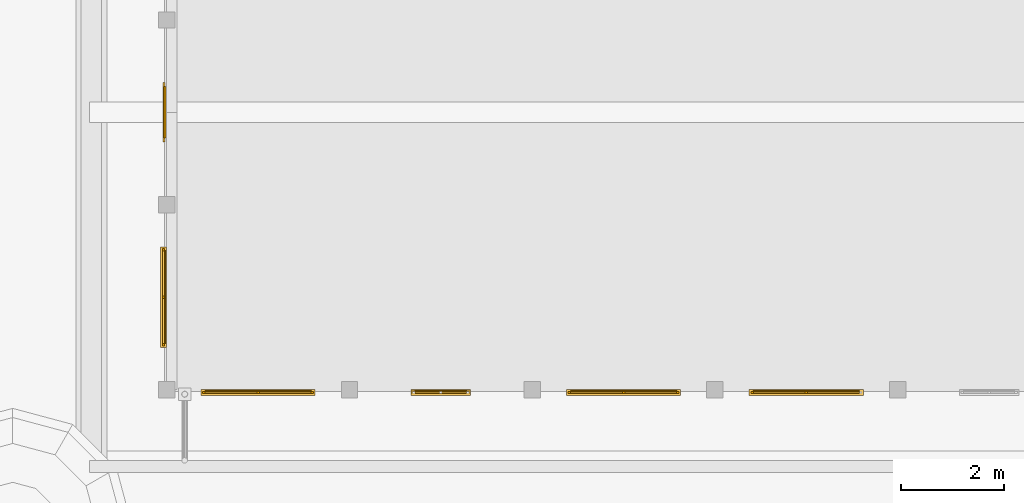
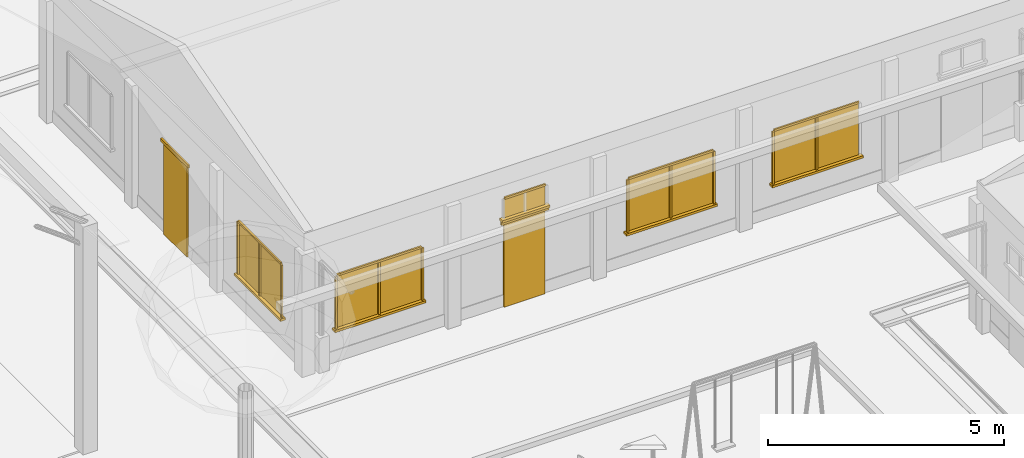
# One storey, part 62 of 177: 26 windows, 4 doors.
"""IFC4 building model written with IfcOpenShell, lengths in metres."""

import ifcopenshell
import ifcopenshell.guid

model = None  # the IFC model being written
_history = None  # IfcOwnerHistory: only IFC2X3 demands one
_inside = {}  # id of a spatial element -> (the spatial element, [elements in it])
_under = {}  # id of a project, library or spatial element -> (it, [spatial elements below it])
_declared = {}  # id of a project -> (the project, [libraries it declares])
_typed = {}  # id of a type object -> (the type object, [elements of that type])
_made_of = {}  # id of a material, layer set ... -> (it, [elements and type objects made of it])


def new_model(schema):
    """Start an empty IFC model of exactly this schema.

    Asked for "IFC4X3", IfcOpenShell would pick the latest addendum, in which some entities
    have other attributes; the version numbers below select the first issue.
    IFC2X3 requires an IfcOwnerHistory on every rooted entity: one is made here for all.
    """
    global model, _history
    if schema == "IFC4X3":
        model = ifcopenshell.file(schema_version=(4, 3, 0, 0))
    else:
        model = ifcopenshell.file(schema=schema)
    _inside.clear()
    _under.clear()
    _declared.clear()
    _typed.clear()
    _made_of.clear()
    _history = None
    if model.schema == "IFC2X3":
        org = make("IfcOrganization", Name="unknown")
        user = make(
            "IfcPersonAndOrganization",
            ThePerson=make("IfcPerson", FamilyName="unknown"),
            TheOrganization=org,
        )
        app = make(
            "IfcApplication",
            ApplicationDeveloper=org,
            Version="unknown",
            ApplicationFullName="unknown",
            ApplicationIdentifier="unknown",
        )
        _history = make(
            "IfcOwnerHistory",
            OwningUser=user,
            OwningApplication=app,
            ChangeAction="ADDED",
            CreationDate=0,
        )
    return model


def make(cls, **values):
    """One entity of the class cls with the attributes given. An attribute that is None is left unset."""
    return model.create_entity(
        cls, **{name: value for name, value in values.items() if value is not None}
    )


def rooted(cls, **values):
    """An entity with a GlobalId (a new one), such as an element, a storey or a relation."""
    return make(cls, GlobalId=ifcopenshell.guid.new(), OwnerHistory=_history, **values)


def si_unit(unit_type, name, prefix=None):
    """IfcSIUnit, for example si_unit("LENGTHUNIT", "METRE", prefix="MILLI")."""
    return make("IfcSIUnit", UnitType=unit_type, Prefix=prefix, Name=name)


def assignment(units):
    """IfcUnitAssignment: the units of a project."""
    return None if units is None else make("IfcUnitAssignment", Units=units)


def point(xyz):
    """IfcCartesianPoint."""
    return None if xyz is None else make("IfcCartesianPoint", Coordinates=xyz)


def direction(xyz):
    """IfcDirection."""
    return None if xyz is None else make("IfcDirection", DirectionRatios=xyz)


def frame(location, z_axis=None, x_axis=None):
    """IfcAxis2Placement3D, a coordinate frame: its origin and axes. An axis left out is left unset."""
    return make(
        "IfcAxis2Placement3D",
        Location=point(location),
        Axis=direction(z_axis),
        RefDirection=direction(x_axis),
    )


def origin():
    """The frame at (0, 0, 0) with its axes left unset."""
    return frame((0.0, 0.0, 0.0))


def origin_with_axes():
    """The frame at (0, 0, 0) with the z axis (0, 0, 1) and the x axis (1, 0, 0) written out."""
    return frame((0.0, 0.0, 0.0), z_axis=(0.0, 0.0, 1.0), x_axis=(1.0, 0.0, 0.0))


def place(relative_to, where):
    """IfcLocalPlacement: puts the frame where relative to a parent placement (None: the world)."""
    return make(
        "IfcLocalPlacement", PlacementRelTo=relative_to, RelativePlacement=where
    )


def context(
    kind, dimensions, precision=None, world=None, true_north=None, identifier=None
):
    """IfcGeometricRepresentationContext, for example the 3D "Model" context."""
    return make(
        "IfcGeometricRepresentationContext",
        ContextIdentifier=identifier,
        ContextType=kind,
        CoordinateSpaceDimension=dimensions,
        Precision=precision,
        WorldCoordinateSystem=world,
        TrueNorth=true_north,
    )


def subcontext(parent, identifier, kind, view, scale=None):
    """IfcGeometricRepresentationSubContext, for example "Body" below "Model"."""
    return make(
        "IfcGeometricRepresentationSubContext",
        ContextIdentifier=identifier,
        ContextType=kind,
        ParentContext=parent,
        TargetScale=scale,
        TargetView=view,
    )


def project(units=None, contexts=None):
    """IfcProject with its units and contexts."""
    return rooted(
        "IfcProject",
        Name="project",
        RepresentationContexts=contexts,
        UnitsInContext=assignment(units),
    )


def spatial(cls, under=None, at=None, **own):
    """A site, building, storey or space (cls), placed at a placement, below another one or the project."""
    s = rooted(cls, ObjectPlacement=at, **own)
    if under is not None:
        _under.setdefault(under.id(), (under, []))[1].append(s)
    return s


def point_list(points):
    """IfcCartesianPointList2D or 3D."""
    cls = (
        "IfcCartesianPointList2D" if len(points[0]) == 2 else "IfcCartesianPointList3D"
    )
    return make(cls, CoordList=points)


def triangles(points, corners, closed=None, point_numbers=None):
    """IfcTriangulatedFaceSet: each triangle names its three corners, points numbered from 1."""
    return make(
        "IfcTriangulatedFaceSet",
        Coordinates=point_list(points),
        Closed=closed,
        CoordIndex=corners,
        PnIndex=point_numbers,
    )


def shape(context_of_items, identifier, shape_type, items):
    """IfcShapeRepresentation: the items that make up one representation, for example the "Body"."""
    return make(
        "IfcShapeRepresentation",
        ContextOfItems=context_of_items,
        RepresentationIdentifier=identifier,
        RepresentationType=shape_type,
        Items=items,
    )


def made_of(thing, what):
    """Note that an element or type object is made of a material, layer set ...; save() writes the relation."""
    if what is not None:
        _made_of.setdefault(what.id(), (what, []))[1].append(thing)
    return thing


def element(
    cls,
    number,
    at=None,
    inside=None,
    cuts=None,
    type_object=None,
    material=None,
    context=None,
    identifier="Body",
    shape_type=None,
    held_by="IfcProductDefinitionShape",
    body=None,
    shapes=None,
    **own,
):
    """One element of the class cls, such as IfcWall. Its Tag is "e" and its number.

    at: its placement. inside: the storey or other place that contains it. cuts: it is an
    opening in that element (IfcRelVoidsElement). A single representation is given by context,
    identifier, shape_type and body (its items); several are given by shapes. held_by: the class
    of the entity that holds the representations. save() writes the other relations.
    """
    e = rooted(cls, Tag="e%d" % number, ObjectPlacement=at, **own)
    if body is not None:
        shapes = [shape(context, identifier, shape_type, body)]
    if shapes is not None:
        e.Representation = make(held_by, Representations=shapes)
    if inside is not None:
        _inside.setdefault(inside.id(), (inside, []))[1].append(e)
    if cuts is not None:
        rooted(
            "IfcRelVoidsElement", RelatingBuildingElement=cuts, RelatedOpeningElement=e
        )
    if type_object is not None:
        _typed.setdefault(type_object.id(), (type_object, []))[1].append(e)
    return made_of(e, material)


def aggregate(whole, parts):
    """IfcRelAggregates: a whole, such as a stair, and the parts it consists of."""
    return rooted("IfcRelAggregates", RelatingObject=whole, RelatedObjects=parts)


def save(model, path):
    """Write the relations noted so far, then the file.

    IfcRelAggregates (storeys below a building ...), IfcRelContainedInSpatialStructure (elements
    in a storey), IfcRelDefinesByType, IfcRelAssociatesMaterial and IfcRelDeclares: one each for
    every whole, place, type object, material and project.
    """
    for whole, parts in _under.values():
        aggregate(whole, parts)
    for where, things in _inside.values():
        rooted(
            "IfcRelContainedInSpatialStructure",
            RelatedElements=things,
            RelatingStructure=where,
        )
    for kind, things in _typed.values():
        rooted("IfcRelDefinesByType", RelatedObjects=things, RelatingType=kind)
    for what, things in _made_of.values():
        rooted("IfcRelAssociatesMaterial", RelatedObjects=things, RelatingMaterial=what)
    for by, libraries in _declared.values():
        rooted("IfcRelDeclares", RelatingContext=by, RelatedDefinitions=libraries)
    model.write(path)


model = new_model("IFC4")

# Units and contexts
model_context = context("Model", 3, precision=1e-05, world=origin_with_axes())
body_context = subcontext(model_context, "Body", "Model", "MODEL_VIEW")
ifc_project = project(units=[si_unit("LENGTHUNIT", "METRE"), si_unit("AREAUNIT", "SQUARE_METRE"), si_unit("VOLUMEUNIT", "CUBIC_METRE"), si_unit("PLANEANGLEUNIT", "RADIAN")], contexts=[model_context])

# Site, building, storey
site_placement = place(None, origin_with_axes())
site = spatial("IfcSite", under=ifc_project, at=site_placement, Name="Predio Los Mangos - Morales, San Martín", CompositionType="ELEMENT")
building_placement = place(site_placement, origin())
building = spatial("IfcBuilding", under=site, at=building_placement, Name="Hogar de Refugio Temporal", CompositionType="ELEMENT")
storey_placement = place(building_placement, origin())
storey = spatial("IfcBuildingStorey", under=building, at=storey_placement, Name="NIVEL 1 (NPT +0.00)", CompositionType="ELEMENT", Elevation=0.0)

# Windows
window_1_placement = place(storey_placement, origin())
element("IfcWindow", 1, at=window_1_placement, inside=storey, Name="E-06_v0_vid", ObjectType="Ventana", PredefinedType="WINDOW", context=body_context, shape_type="Tessellation", body=[
    triangles([(32.7476, 92.66, 1.05), (34.8124, 92.66, 1.05), (34.8124, 92.68, 1.05), (32.7476, 92.68, 1.05), (32.7476, 92.66, 2.4), (34.8124, 92.66, 2.4), (34.8124, 92.68, 2.4), (32.7476, 92.68, 2.4)], [[1, 4, 3], [1, 3, 2], [5, 6, 7], [5, 7, 8], [1, 2, 6], [1, 6, 5], [2, 3, 7], [2, 7, 6], [3, 4, 8], [3, 8, 7], [4, 1, 5], [4, 5, 8]]),
])
window_2_placement = place(storey_placement, origin())
element("IfcWindow", 2, at=window_2_placement, inside=storey, Name="E-06_v0_m", ObjectType="Ventana", PredefinedType="WINDOW", context=body_context, shape_type="Tessellation", body=[
    triangles([(32.6976, 92.62, 1.05), (32.7476, 92.62, 1.05), (32.7476, 92.66, 1.05), (32.6976, 92.66, 1.05), (32.6976, 92.62, 2.4), (32.7476, 92.62, 2.4), (32.7476, 92.66, 2.4), (32.6976, 92.66, 2.4)], [[1, 4, 3], [1, 3, 2], [5, 6, 7], [5, 7, 8], [1, 2, 6], [1, 6, 5], [2, 3, 7], [2, 7, 6], [3, 4, 8], [3, 8, 7], [4, 1, 5], [4, 5, 8]]),
])
window_3_placement = place(storey_placement, origin())
element("IfcWindow", 3, at=window_3_placement, inside=storey, Name="E-06_v0_m", ObjectType="Ventana", PredefinedType="WINDOW", context=body_context, shape_type="Tessellation", body=[
    triangles([(34.8124, 92.62, 1.05), (34.8624, 92.62, 1.05), (34.8624, 92.66, 1.05), (34.8124, 92.66, 1.05), (34.8124, 92.62, 2.4), (34.8624, 92.62, 2.4), (34.8624, 92.66, 2.4), (34.8124, 92.66, 2.4)], [[1, 4, 3], [1, 3, 2], [5, 6, 7], [5, 7, 8], [1, 2, 6], [1, 6, 5], [2, 3, 7], [2, 7, 6], [3, 4, 8], [3, 8, 7], [4, 1, 5], [4, 5, 8]]),
])
window_4_placement = place(storey_placement, origin())
element("IfcWindow", 4, at=window_4_placement, inside=storey, Name="E-06_v0_m", ObjectType="Ventana", PredefinedType="WINDOW", context=body_context, shape_type="Tessellation", body=[
    triangles([(32.7476, 92.62, 2.4), (34.8124, 92.62, 2.4), (34.8124, 92.66, 2.4), (32.7476, 92.66, 2.4), (32.7476, 92.62, 2.45), (34.8124, 92.62, 2.45), (34.8124, 92.66, 2.45), (32.7476, 92.66, 2.45)], [[1, 4, 3], [1, 3, 2], [5, 6, 7], [5, 7, 8], [1, 2, 6], [1, 6, 5], [2, 3, 7], [2, 7, 6], [3, 4, 8], [3, 8, 7], [4, 1, 5], [4, 5, 8]]),
])
window_5_placement = place(storey_placement, origin())
element("IfcWindow", 5, at=window_5_placement, inside=storey, Name="E-06_v0_m", ObjectType="Ventana", PredefinedType="WINDOW", context=body_context, shape_type="Tessellation", body=[
    triangles([(33.755, 92.62, 1.05), (33.805, 92.62, 1.05), (33.805, 92.66, 1.05), (33.755, 92.66, 1.05), (33.755, 92.62, 2.4), (33.805, 92.62, 2.4), (33.805, 92.66, 2.4), (33.755, 92.66, 2.4)], [[1, 4, 3], [1, 3, 2], [5, 6, 7], [5, 7, 8], [1, 2, 6], [1, 6, 5], [2, 3, 7], [2, 7, 6], [3, 4, 8], [3, 8, 7], [4, 1, 5], [4, 5, 8]]),
])
window_6_placement = place(storey_placement, origin())
element("IfcWindow", 6, at=window_6_placement, inside=storey, Name="E-06_v0_alf", ObjectType="Ventana", PredefinedType="WINDOW", context=body_context, shape_type="Tessellation", body=[
    triangles([(32.6676, 92.7, 0.99), (34.8924, 92.7, 0.99), (34.8924, 92.58, 0.99), (32.6676, 92.58, 0.99), (32.6676, 92.7, 1.05), (34.8924, 92.7, 1.05), (34.8924, 92.58, 1.05), (32.6676, 92.58, 1.05)], [[1, 4, 3], [1, 3, 2], [5, 6, 7], [5, 7, 8], [1, 2, 6], [1, 6, 5], [2, 3, 7], [2, 7, 6], [3, 4, 8], [3, 8, 7], [4, 1, 5], [4, 5, 8]]),
])

# Doors
door_1_placement = place(storey_placement, origin())
element("IfcDoor", 7, at=door_1_placement, inside=storey, Name="E-06_p1", ObjectType="Puerta", PredefinedType="DOOR", context=body_context, shape_type="Tessellation", body=[
    triangles([(36.84, 92.65, 0.15), (37.84, 92.65, 0.15), (37.84, 92.69, 0.15), (36.84, 92.69, 0.15), (36.84, 92.65, 2.3), (37.84, 92.65, 2.3), (37.84, 92.69, 2.3), (36.84, 92.69, 2.3)], [[1, 4, 3], [1, 3, 2], [5, 6, 7], [5, 7, 8], [1, 2, 6], [1, 6, 5], [2, 3, 7], [2, 7, 6], [3, 4, 8], [3, 8, 7], [4, 1, 5], [4, 5, 8]]),
])
door_2_placement = place(storey_placement, origin())
element("IfcDoor", 8, at=door_2_placement, inside=storey, Name="E-06_p1_marco", ObjectType="Puerta", PredefinedType="DOOR", context=body_context, shape_type="Tessellation", body=[
    triangles([(36.76, 92.63, 2.3), (37.92, 92.63, 2.3), (37.92, 92.67, 2.3), (36.76, 92.67, 2.3), (36.76, 92.63, 2.38), (37.92, 92.63, 2.38), (37.92, 92.67, 2.38), (36.76, 92.67, 2.38)], [[1, 4, 3], [1, 3, 2], [5, 6, 7], [5, 7, 8], [1, 2, 6], [1, 6, 5], [2, 3, 7], [2, 7, 6], [3, 4, 8], [3, 8, 7], [4, 1, 5], [4, 5, 8]]),
])

# Windows
window_7_placement = place(storey_placement, origin())
element("IfcWindow", 9, at=window_7_placement, inside=storey, Name="E-06_vt1_vid", ObjectType="Ventana", PredefinedType="WINDOW", context=body_context, shape_type="Tessellation", body=[
    triangles([(36.84, 92.66, 2.45), (37.84, 92.66, 2.45), (37.84, 92.68, 2.45), (36.84, 92.68, 2.45), (36.84, 92.66, 2.95), (37.84, 92.66, 2.95), (37.84, 92.68, 2.95), (36.84, 92.68, 2.95)], [[1, 4, 3], [1, 3, 2], [5, 6, 7], [5, 7, 8], [1, 2, 6], [1, 6, 5], [2, 3, 7], [2, 7, 6], [3, 4, 8], [3, 8, 7], [4, 1, 5], [4, 5, 8]]),
])
window_8_placement = place(storey_placement, origin())
element("IfcWindow", 10, at=window_8_placement, inside=storey, Name="E-06_vt1_m", ObjectType="Ventana", PredefinedType="WINDOW", context=body_context, shape_type="Tessellation", body=[
    triangles([(36.84, 92.62, 2.95), (37.84, 92.62, 2.95), (37.84, 92.66, 2.95), (36.84, 92.66, 2.95), (36.84, 92.62, 3.0), (37.84, 92.62, 3.0), (37.84, 92.66, 3.0), (36.84, 92.66, 3.0)], [[1, 4, 3], [1, 3, 2], [5, 6, 7], [5, 7, 8], [1, 2, 6], [1, 6, 5], [2, 3, 7], [2, 7, 6], [3, 4, 8], [3, 8, 7], [4, 1, 5], [4, 5, 8]]),
])
window_9_placement = place(storey_placement, origin())
element("IfcWindow", 11, at=window_9_placement, inside=storey, Name="E-06_vt1_alf", ObjectType="Ventana", PredefinedType="WINDOW", context=body_context, shape_type="Tessellation", body=[
    triangles([(36.76, 92.7, 2.39), (37.92, 92.7, 2.39), (37.92, 92.58, 2.39), (36.76, 92.58, 2.39), (36.76, 92.7, 2.45), (37.92, 92.7, 2.45), (37.92, 92.58, 2.45), (36.76, 92.58, 2.45)], [[1, 4, 3], [1, 3, 2], [5, 6, 7], [5, 7, 8], [1, 2, 6], [1, 6, 5], [2, 3, 7], [2, 7, 6], [3, 4, 8], [3, 8, 7], [4, 1, 5], [4, 5, 8]]),
])
window_10_placement = place(storey_placement, origin())
element("IfcWindow", 12, at=window_10_placement, inside=storey, Name="E-06_v2_vid", ObjectType="Ventana", PredefinedType="WINDOW", context=body_context, shape_type="Tessellation", body=[
    triangles([(39.8676, 92.66, 1.05), (41.9324, 92.66, 1.05), (41.9324, 92.68, 1.05), (39.8676, 92.68, 1.05), (39.8676, 92.66, 2.4), (41.9324, 92.66, 2.4), (41.9324, 92.68, 2.4), (39.8676, 92.68, 2.4)], [[1, 4, 3], [1, 3, 2], [5, 6, 7], [5, 7, 8], [1, 2, 6], [1, 6, 5], [2, 3, 7], [2, 7, 6], [3, 4, 8], [3, 8, 7], [4, 1, 5], [4, 5, 8]]),
])
window_11_placement = place(storey_placement, origin())
element("IfcWindow", 13, at=window_11_placement, inside=storey, Name="E-06_v2_m", ObjectType="Ventana", PredefinedType="WINDOW", context=body_context, shape_type="Tessellation", body=[
    triangles([(39.8176, 92.62, 1.05), (39.8676, 92.62, 1.05), (39.8676, 92.66, 1.05), (39.8176, 92.66, 1.05), (39.8176, 92.62, 2.4), (39.8676, 92.62, 2.4), (39.8676, 92.66, 2.4), (39.8176, 92.66, 2.4)], [[1, 4, 3], [1, 3, 2], [5, 6, 7], [5, 7, 8], [1, 2, 6], [1, 6, 5], [2, 3, 7], [2, 7, 6], [3, 4, 8], [3, 8, 7], [4, 1, 5], [4, 5, 8]]),
])
window_12_placement = place(storey_placement, origin())
element("IfcWindow", 14, at=window_12_placement, inside=storey, Name="E-06_v2_m", ObjectType="Ventana", PredefinedType="WINDOW", context=body_context, shape_type="Tessellation", body=[
    triangles([(41.9324, 92.62, 1.05), (41.9824, 92.62, 1.05), (41.9824, 92.66, 1.05), (41.9324, 92.66, 1.05), (41.9324, 92.62, 2.4), (41.9824, 92.62, 2.4), (41.9824, 92.66, 2.4), (41.9324, 92.66, 2.4)], [[1, 4, 3], [1, 3, 2], [5, 6, 7], [5, 7, 8], [1, 2, 6], [1, 6, 5], [2, 3, 7], [2, 7, 6], [3, 4, 8], [3, 8, 7], [4, 1, 5], [4, 5, 8]]),
])
window_13_placement = place(storey_placement, origin())
element("IfcWindow", 15, at=window_13_placement, inside=storey, Name="E-06_v2_m", ObjectType="Ventana", PredefinedType="WINDOW", context=body_context, shape_type="Tessellation", body=[
    triangles([(39.8676, 92.62, 2.4), (41.9324, 92.62, 2.4), (41.9324, 92.66, 2.4), (39.8676, 92.66, 2.4), (39.8676, 92.62, 2.45), (41.9324, 92.62, 2.45), (41.9324, 92.66, 2.45), (39.8676, 92.66, 2.45)], [[1, 4, 3], [1, 3, 2], [5, 6, 7], [5, 7, 8], [1, 2, 6], [1, 6, 5], [2, 3, 7], [2, 7, 6], [3, 4, 8], [3, 8, 7], [4, 1, 5], [4, 5, 8]]),
])
window_14_placement = place(storey_placement, origin())
element("IfcWindow", 16, at=window_14_placement, inside=storey, Name="E-06_v2_m", ObjectType="Ventana", PredefinedType="WINDOW", context=body_context, shape_type="Tessellation", body=[
    triangles([(40.875, 92.62, 1.05), (40.925, 92.62, 1.05), (40.925, 92.66, 1.05), (40.875, 92.66, 1.05), (40.875, 92.62, 2.4), (40.925, 92.62, 2.4), (40.925, 92.66, 2.4), (40.875, 92.66, 2.4)], [[1, 4, 3], [1, 3, 2], [5, 6, 7], [5, 7, 8], [1, 2, 6], [1, 6, 5], [2, 3, 7], [2, 7, 6], [3, 4, 8], [3, 8, 7], [4, 1, 5], [4, 5, 8]]),
])
window_15_placement = place(storey_placement, origin())
element("IfcWindow", 17, at=window_15_placement, inside=storey, Name="E-06_v2_alf", ObjectType="Ventana", PredefinedType="WINDOW", context=body_context, shape_type="Tessellation", body=[
    triangles([(39.7876, 92.7, 0.99), (42.0124, 92.7, 0.99), (42.0124, 92.58, 0.99), (39.7876, 92.58, 0.99), (39.7876, 92.7, 1.05), (42.0124, 92.7, 1.05), (42.0124, 92.58, 1.05), (39.7876, 92.58, 1.05)], [[1, 4, 3], [1, 3, 2], [5, 6, 7], [5, 7, 8], [1, 2, 6], [1, 6, 5], [2, 3, 7], [2, 7, 6], [3, 4, 8], [3, 8, 7], [4, 1, 5], [4, 5, 8]]),
])
window_16_placement = place(storey_placement, origin())
element("IfcWindow", 18, at=window_16_placement, inside=storey, Name="E-06_v3_vid", ObjectType="Ventana", PredefinedType="WINDOW", context=body_context, shape_type="Tessellation", body=[
    triangles([(43.4276, 92.66, 1.05), (45.4924, 92.66, 1.05), (45.4924, 92.68, 1.05), (43.4276, 92.68, 1.05), (43.4276, 92.66, 2.4), (45.4924, 92.66, 2.4), (45.4924, 92.68, 2.4), (43.4276, 92.68, 2.4)], [[1, 4, 3], [1, 3, 2], [5, 6, 7], [5, 7, 8], [1, 2, 6], [1, 6, 5], [2, 3, 7], [2, 7, 6], [3, 4, 8], [3, 8, 7], [4, 1, 5], [4, 5, 8]]),
])
window_17_placement = place(storey_placement, origin())
element("IfcWindow", 19, at=window_17_placement, inside=storey, Name="E-06_v3_m", ObjectType="Ventana", PredefinedType="WINDOW", context=body_context, shape_type="Tessellation", body=[
    triangles([(43.3776, 92.62, 1.05), (43.4276, 92.62, 1.05), (43.4276, 92.66, 1.05), (43.3776, 92.66, 1.05), (43.3776, 92.62, 2.4), (43.4276, 92.62, 2.4), (43.4276, 92.66, 2.4), (43.3776, 92.66, 2.4)], [[1, 4, 3], [1, 3, 2], [5, 6, 7], [5, 7, 8], [1, 2, 6], [1, 6, 5], [2, 3, 7], [2, 7, 6], [3, 4, 8], [3, 8, 7], [4, 1, 5], [4, 5, 8]]),
])
window_18_placement = place(storey_placement, origin())
element("IfcWindow", 20, at=window_18_placement, inside=storey, Name="E-06_v3_m", ObjectType="Ventana", PredefinedType="WINDOW", context=body_context, shape_type="Tessellation", body=[
    triangles([(43.4276, 92.62, 2.4), (45.4924, 92.62, 2.4), (45.4924, 92.66, 2.4), (43.4276, 92.66, 2.4), (43.4276, 92.62, 2.45), (45.4924, 92.62, 2.45), (45.4924, 92.66, 2.45), (43.4276, 92.66, 2.45)], [[1, 4, 3], [1, 3, 2], [5, 6, 7], [5, 7, 8], [1, 2, 6], [1, 6, 5], [2, 3, 7], [2, 7, 6], [3, 4, 8], [3, 8, 7], [4, 1, 5], [4, 5, 8]]),
])
window_19_placement = place(storey_placement, origin())
element("IfcWindow", 21, at=window_19_placement, inside=storey, Name="E-06_v3_m", ObjectType="Ventana", PredefinedType="WINDOW", context=body_context, shape_type="Tessellation", body=[
    triangles([(44.435, 92.62, 1.05), (44.485, 92.62, 1.05), (44.485, 92.66, 1.05), (44.435, 92.66, 1.05), (44.435, 92.62, 2.4), (44.485, 92.62, 2.4), (44.485, 92.66, 2.4), (44.435, 92.66, 2.4)], [[1, 4, 3], [1, 3, 2], [5, 6, 7], [5, 7, 8], [1, 2, 6], [1, 6, 5], [2, 3, 7], [2, 7, 6], [3, 4, 8], [3, 8, 7], [4, 1, 5], [4, 5, 8]]),
])
window_20_placement = place(storey_placement, origin())
element("IfcWindow", 22, at=window_20_placement, inside=storey, Name="E-06_v3_alf", ObjectType="Ventana", PredefinedType="WINDOW", context=body_context, shape_type="Tessellation", body=[
    triangles([(43.3476, 92.7, 0.99), (45.5724, 92.7, 0.99), (45.5724, 92.58, 0.99), (43.3476, 92.58, 0.99), (43.3476, 92.7, 1.05), (45.5724, 92.7, 1.05), (45.5724, 92.58, 1.05), (43.3476, 92.58, 1.05)], [[1, 4, 3], [1, 3, 2], [5, 6, 7], [5, 7, 8], [1, 2, 6], [1, 6, 5], [2, 3, 7], [2, 7, 6], [3, 4, 8], [3, 8, 7], [4, 1, 5], [4, 5, 8]]),
])
window_21_placement = place(storey_placement, origin())
element("IfcWindow", 23, at=window_21_placement, inside=storey, Name="E-06_vg0_vid", ObjectType="Ventana", PredefinedType="WINDOW", context=body_context, shape_type="Tessellation", body=[
    triangles([(31.96, 93.6, 1.05), (31.98, 93.6, 1.05), (31.98, 95.4, 1.05), (31.96, 95.4, 1.05), (31.96, 93.6, 2.4), (31.98, 93.6, 2.4), (31.98, 95.4, 2.4), (31.96, 95.4, 2.4)], [[1, 4, 3], [1, 3, 2], [5, 6, 7], [5, 7, 8], [1, 2, 6], [1, 6, 5], [2, 3, 7], [2, 7, 6], [3, 4, 8], [3, 8, 7], [4, 1, 5], [4, 5, 8]]),
])
window_22_placement = place(storey_placement, origin())
element("IfcWindow", 24, at=window_22_placement, inside=storey, Name="E-06_vg0_m", ObjectType="Ventana", PredefinedType="WINDOW", context=body_context, shape_type="Tessellation", body=[
    triangles([(31.92, 93.55, 1.05), (31.96, 93.55, 1.05), (31.96, 93.6, 1.05), (31.92, 93.6, 1.05), (31.92, 93.55, 2.4), (31.96, 93.55, 2.4), (31.96, 93.6, 2.4), (31.92, 93.6, 2.4)], [[1, 4, 3], [1, 3, 2], [5, 6, 7], [5, 7, 8], [1, 2, 6], [1, 6, 5], [2, 3, 7], [2, 7, 6], [3, 4, 8], [3, 8, 7], [4, 1, 5], [4, 5, 8]]),
])
window_23_placement = place(storey_placement, origin())
element("IfcWindow", 25, at=window_23_placement, inside=storey, Name="E-06_vg0_m", ObjectType="Ventana", PredefinedType="WINDOW", context=body_context, shape_type="Tessellation", body=[
    triangles([(31.92, 95.4, 1.05), (31.96, 95.4, 1.05), (31.96, 95.45, 1.05), (31.92, 95.45, 1.05), (31.92, 95.4, 2.4), (31.96, 95.4, 2.4), (31.96, 95.45, 2.4), (31.92, 95.45, 2.4)], [[1, 4, 3], [1, 3, 2], [5, 6, 7], [5, 7, 8], [1, 2, 6], [1, 6, 5], [2, 3, 7], [2, 7, 6], [3, 4, 8], [3, 8, 7], [4, 1, 5], [4, 5, 8]]),
])
window_24_placement = place(storey_placement, origin())
element("IfcWindow", 26, at=window_24_placement, inside=storey, Name="E-06_vg0_m", ObjectType="Ventana", PredefinedType="WINDOW", context=body_context, shape_type="Tessellation", body=[
    triangles([(31.92, 93.6, 2.4), (31.96, 93.6, 2.4), (31.96, 95.4, 2.4), (31.92, 95.4, 2.4), (31.92, 93.6, 2.45), (31.96, 93.6, 2.45), (31.96, 95.4, 2.45), (31.92, 95.4, 2.45)], [[1, 4, 3], [1, 3, 2], [5, 6, 7], [5, 7, 8], [1, 2, 6], [1, 6, 5], [2, 3, 7], [2, 7, 6], [3, 4, 8], [3, 8, 7], [4, 1, 5], [4, 5, 8]]),
])
window_25_placement = place(storey_placement, origin())
element("IfcWindow", 27, at=window_25_placement, inside=storey, Name="E-06_vg0_m", ObjectType="Ventana", PredefinedType="WINDOW", context=body_context, shape_type="Tessellation", body=[
    triangles([(31.92, 94.475, 1.05), (31.96, 94.475, 1.05), (31.96, 94.525, 1.05), (31.92, 94.525, 1.05), (31.92, 94.475, 2.4), (31.96, 94.475, 2.4), (31.96, 94.525, 2.4), (31.92, 94.525, 2.4)], [[1, 4, 3], [1, 3, 2], [5, 6, 7], [5, 7, 8], [1, 2, 6], [1, 6, 5], [2, 3, 7], [2, 7, 6], [3, 4, 8], [3, 8, 7], [4, 1, 5], [4, 5, 8]]),
])
window_26_placement = place(storey_placement, origin())
element("IfcWindow", 28, at=window_26_placement, inside=storey, Name="E-06_vg0_alf", ObjectType="Ventana", PredefinedType="WINDOW", context=body_context, shape_type="Tessellation", body=[
    triangles([(32.0, 93.52, 0.99), (31.88, 93.52, 0.99), (31.88, 95.48, 0.99), (32.0, 95.48, 0.99), (32.0, 93.52, 1.05), (31.88, 93.52, 1.05), (31.88, 95.48, 1.05), (32.0, 95.48, 1.05)], [[1, 4, 3], [1, 3, 2], [5, 6, 7], [5, 7, 8], [1, 2, 6], [1, 6, 5], [2, 3, 7], [2, 7, 6], [3, 4, 8], [3, 8, 7], [4, 1, 5], [4, 5, 8]]),
])

# Doors
door_3_placement = place(storey_placement, origin())
element("IfcDoor", 29, at=door_3_placement, inside=storey, Name="E-06_pp", ObjectType="Puerta", PredefinedType="DOOR", context=body_context, shape_type="Tessellation", body=[
    triangles([(31.95, 97.6, 0.15), (31.99, 97.6, 0.15), (31.99, 98.6, 0.15), (31.95, 98.6, 0.15), (31.95, 97.6, 2.5), (31.99, 97.6, 2.5), (31.99, 98.6, 2.5), (31.95, 98.6, 2.5)], [[1, 4, 3], [1, 3, 2], [5, 6, 7], [5, 7, 8], [1, 2, 6], [1, 6, 5], [2, 3, 7], [2, 7, 6], [3, 4, 8], [3, 8, 7], [4, 1, 5], [4, 5, 8]]),
])
door_4_placement = place(storey_placement, origin())
element("IfcDoor", 30, at=door_4_placement, inside=storey, Name="E-06_pp_marco", ObjectType="Puerta", PredefinedType="DOOR", context=body_context, shape_type="Tessellation", body=[
    triangles([(31.93, 97.52, 2.5), (31.97, 97.52, 2.5), (31.97, 98.68, 2.5), (31.93, 98.68, 2.5), (31.93, 97.52, 2.58), (31.97, 97.52, 2.58), (31.97, 98.68, 2.58), (31.93, 98.68, 2.58)], [[1, 4, 3], [1, 3, 2], [5, 6, 7], [5, 7, 8], [1, 2, 6], [1, 6, 5], [2, 3, 7], [2, 7, 6], [3, 4, 8], [3, 8, 7], [4, 1, 5], [4, 5, 8]]),
])

save(model, "model.ifc")
